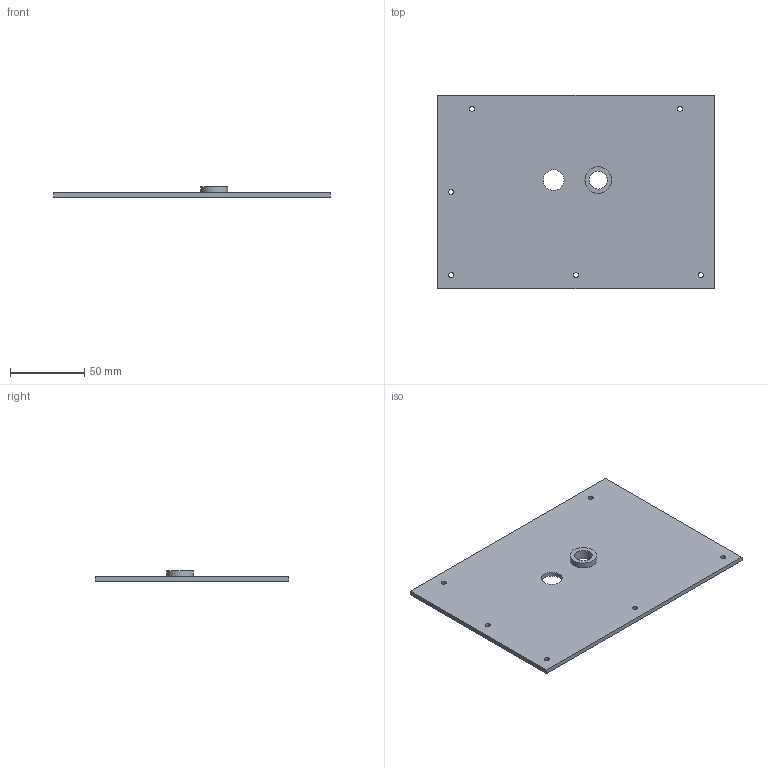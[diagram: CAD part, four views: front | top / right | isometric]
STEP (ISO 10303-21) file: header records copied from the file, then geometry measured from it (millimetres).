
FILE_DESCRIPTION(('Open CASCADE Model'),'2;1');
FILE_NAME('Open CASCADE Shape Model','2026-07-25T17:39:16',('Author'),( 'Open CASCADE'),'Open CASCADE STEP processor 7.9','build123d', 'Unknown');
FILE_SCHEMA(('AUTOMOTIVE_DESIGN { 1 0 10303 214 1 1 1 1 }'));
Length unit declared in the file: millimetre
Products named in the file (1): COMPOUND
Bounding box: 186 x 130 x 7 mm (x, y, z)
Volume: 72141 mm3; surface area: 50427.3 mm2
Topology: 1 solids, 1 shells, 16 faces, 39 edges, 26 vertices
Faces by surface type: cylinder 9, plane 7
Full cylindrical faces by diameter (mm): 3.4 x6, 12 x1, 14 x1, 18 x1
Entity records: 1030 total; most frequent: DIRECTION 169, CARTESIAN_POINT 160, LINE 81, VECTOR 81, ORIENTED_EDGE 78, PCURVE 78, DEFINITIONAL_REPRESENTATION 78, EDGE_CURVE 39
